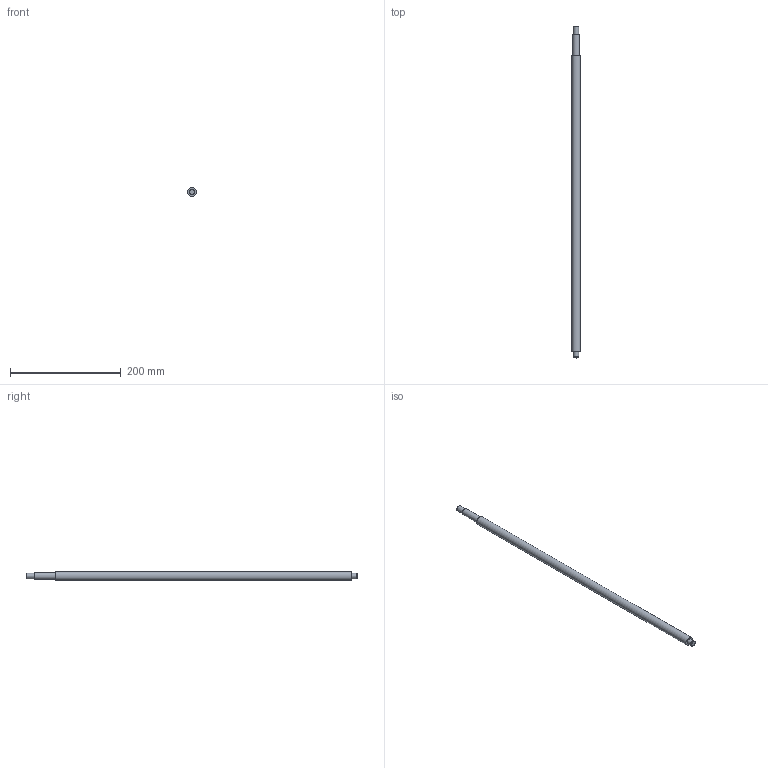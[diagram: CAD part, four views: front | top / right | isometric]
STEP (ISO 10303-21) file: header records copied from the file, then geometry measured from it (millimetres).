
FILE_DESCRIPTION(/* description */ (''),/* implementation_level */ '2;1');
FILE_NAME(/* name */ 'C:\Users\David\Desktop\stepFiles\Profilfuehrung\KUS1605x600.stp',/* time_stamp */ '2018-06-24T15:08:45+02:00',/* author */ ('David'),/* organization */ (''),/* preprocessor_version */ 'ST-DEVELOPER v17',/* originating_system */ 'Autodesk Inventor 2019',/* authorisation */ '');
FILE_SCHEMA (('AUTOMOTIVE_DESIGN { 1 0 10303 214 3 1 1 }'));
Length unit declared in the file: millimetre
Products named in the file (1): SFU1605xvariabel
Bounding box: 16 x 600 x 16 mm (x, y, z)
Volume: 114006.3 mm3; surface area: 29573.1 mm2
Topology: 1 solids, 1 shells, 15 faces, 34 edges, 26 vertices
Faces by surface type: plane 7, cylinder 6, cone 2
Full cylindrical faces by diameter (mm): 9.6 x1, 10 x3, 12 x1, 16 x1
Entity records: 493 total; most frequent: DIRECTION 92, CARTESIAN_POINT 76, ORIENTED_EDGE 68, AXIS2_PLACEMENT_3D 42, EDGE_CURVE 34, CIRCLE 26, VERTEX_POINT 26, EDGE_LOOP 20
